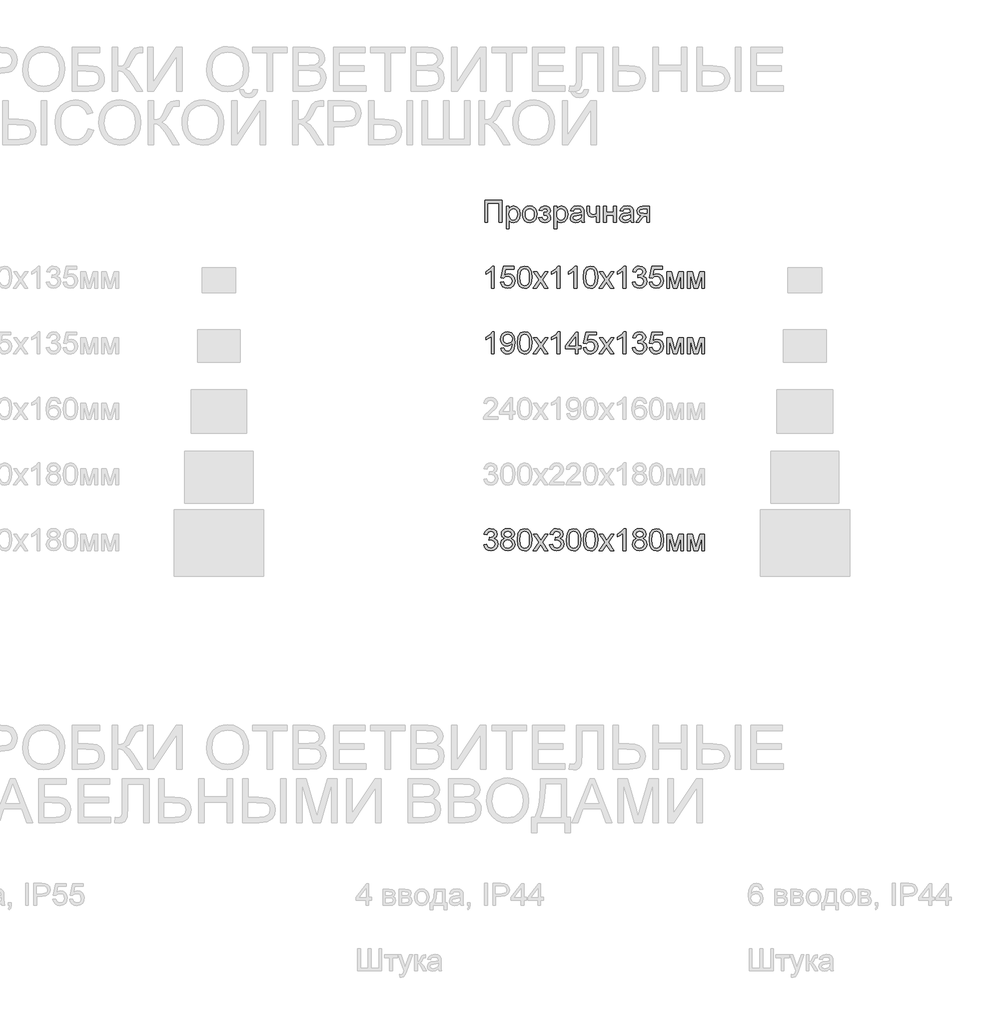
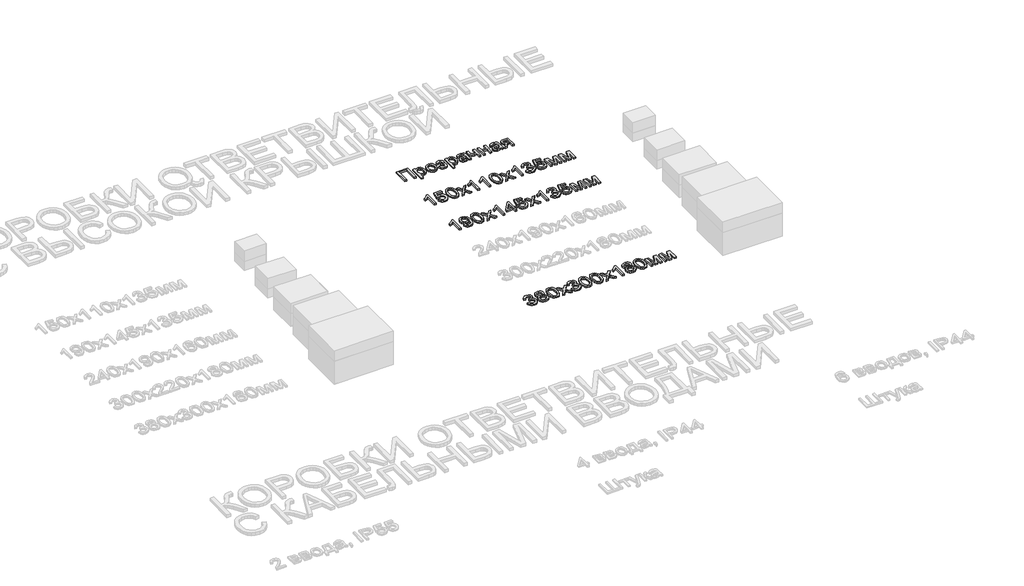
# One storey, part 18 of 98: 4 proxies.
"""IFC4 building model written with IfcOpenShell, lengths in millimetres."""

from ifc_helpers import new_model, si_unit, origin, origin_with_axes, place, context, project, spatial, polyline, outline, extrude, element, save

model = new_model("IFC4")

# Units and contexts
model_context = context("Model", 3, world=origin())
ifc_project = project(units=[si_unit("LENGTHUNIT", "METRE", prefix="MILLI")], contexts=[model_context])

# Site, building, storey
site = spatial("IfcSite", under=ifc_project)
building = spatial("IfcBuilding", under=site)
storey = spatial("IfcBuildingStorey", under=building, Name="Этаж 01", Elevation=0.0)

# Proxies
placement = place(None, origin())
element("IfcBuildingElementProxy", 1, Name="100", ObjectType="100", at=placement, inside=storey, context=model_context, shape_type="SweptSolid", body=[
    extrude(outline(polyline([(2685.9764133, -42337.5373486), (2673.4193745, -42337.5373486), (2673.4193745, -42259.25206), (2661.5245234, -42267.7256087), (2648.305297, -42274.0654417), (2648.305297, -42262.195116), (2666.7116595, -42250.4474176), (2677.8830094, -42237.0810385), (2685.9764133, -42237.0810385), (2685.9764133, -42337.5373486)])), origin_with_axes(), (0.0, 0.0, 1.0), 10.0),
    extrude(outline(polyline([(2715.7993804, -42310.8536412), (2728.3564191, -42309.2840114), (2734.6839895, -42322.2211949), (2747.805114, -42326.5499397), (2756.8059601, -42325.0446892), (2763.5504633, -42320.5289377), (2767.7627122, -42313.5238514), (2769.1667951, -42304.5505964), (2763.9060826, -42289.6391128), (2757.2995351, -42285.5372286), (2748.0013177, -42284.1699338), (2736.9771206, -42286.3527004), (2729.926049, -42292.0180831), (2717.3690102, -42290.4484532), (2728.3564191, -42238.6506683), (2777.0149444, -42238.6506683), (2777.0149444, -42251.2077071), (2738.5099622, -42251.2077071), (2733.1388851, -42278.8724331), (2742.1090744, -42273.4277796), (2751.5084594, -42271.6128951), (2763.2408293, -42273.8631066), (2772.9805052, -42280.6137412), (2779.5380017, -42290.9021744), (2781.7238339, -42303.7657815), (2779.7556652, -42316.3228202), (2773.8511592, -42327.0649745), (2762.5449192, -42336.0964775), (2747.756063, -42339.1069785), (2735.4228191, -42337.1725323), (2725.5973042, -42331.3691938), (2718.861998, -42322.3714134), (2715.7993804, -42310.8536412)])), origin_with_axes(), (0.0, 0.0, 1.0), 10.0),
    extrude(outline(polyline([(2792.7112428, -42288.1185339), (2796.4023255, -42259.2152718), (2807.365209, -42242.5502175), (2825.6734696, -42237.0810385), (2840.3396985, -42240.3184), (2850.4687161, -42249.65034), (2856.354828, -42264.5127726), (2858.6356964, -42288.1185339), (2854.9814019, -42316.8991687), (2844.0553066, -42333.6010113), (2835.823947, -42337.7304867), (2825.6734696, -42339.1069785), (2812.6259215, -42336.7157455), (2802.7176331, -42329.5420466), (2795.2128404, -42312.5520298), (2792.7112428, -42288.1185339)]), holes=[polyline([(2805.2682816, -42288.0940085), (2806.7398096, -42307.8462059), (2811.1543935, -42319.2781389), (2817.7272185, -42324.7319895), (2825.6734696, -42326.5499397), (2833.6197207, -42324.7258581), (2840.1925457, -42319.2536135), (2844.6071296, -42307.8155491), (2846.0786576, -42288.0940085), (2844.6561806, -42268.7863351), (2840.3887494, -42257.2654973), (2833.8281872, -42251.5449322), (2825.5263168, -42249.6380772), (2817.6659048, -42251.3180717), (2811.3505973, -42256.358055), (2806.7888605, -42268.5962627), (2805.2682816, -42288.0940085)])]), origin_with_axes(), (0.0, 0.0, 1.0), 10.0),
    extrude(outline(polyline([(2864.9142158, -42337.5373486), (2891.7450759, -42300.4548435), (2866.4838456, -42263.7647458), (2881.5915329, -42263.7647458), (2893.7806896, -42281.4230816), (2899.4705978, -42289.7617402), (2904.4002166, -42282.9436605), (2918.2816305, -42263.7647458), (2933.3893178, -42263.7647458), (2906.8527632, -42300.4548435), (2932.4082991, -42337.5373486), (2917.3006119, -42337.5373486), (2901.9231445, -42315.2436997), (2899.1027158, -42311.1724723), (2880.021903, -42337.5373486), (2864.9142158, -42337.5373486)])), origin_with_axes(), (0.0, 0.0, 1.0), 10.0),
    extrude(outline(polyline([(2987.3453437, -42337.5373486), (2974.788305, -42337.5373486), (2974.788305, -42259.25206), (2962.8934538, -42267.7256087), (2949.6742274, -42274.0654417), (2949.6742274, -42262.195116), (2968.0805899, -42250.4474176), (2979.2519399, -42237.0810385), (2987.3453437, -42237.0810385), (2987.3453437, -42337.5373486)])), origin_with_axes(), (0.0, 0.0, 1.0), 10.0),
    extrude(outline(polyline([(3064.2572062, -42337.5373486), (3051.7001674, -42337.5373486), (3051.7001674, -42259.25206), (3039.8053163, -42267.7256087), (3026.5860899, -42274.0654417), (3026.5860899, -42262.195116), (3044.9924524, -42250.4474176), (3056.1638023, -42237.0810385), (3064.2572062, -42237.0810385), (3064.2572062, -42337.5373486)])), origin_with_axes(), (0.0, 0.0, 1.0), 10.0),
    extrude(outline(polyline([(3094.0801733, -42288.1185339), (3097.771256, -42259.2152718), (3108.7341394, -42242.5502175), (3127.0424, -42237.0810385), (3141.7086289, -42240.3184), (3151.8376465, -42249.65034), (3157.7237584, -42264.5127726), (3160.0046268, -42288.1185339), (3156.3503323, -42316.8991687), (3145.4242371, -42333.6010113), (3137.1928774, -42337.7304867), (3127.0424, -42339.1069785), (3113.994852, -42336.7157455), (3104.0865635, -42329.5420466), (3096.5817708, -42312.5520298), (3094.0801733, -42288.1185339)]), holes=[polyline([(3106.637212, -42288.0940085), (3108.10874, -42307.8462059), (3112.523324, -42319.2781389), (3119.096149, -42324.7319895), (3127.0424, -42326.5499397), (3134.9886511, -42324.7258581), (3141.5614761, -42319.2536135), (3145.9760601, -42307.8155491), (3147.447588, -42288.0940085), (3146.025111, -42268.7863351), (3141.7576799, -42257.2654973), (3135.1971176, -42251.5449322), (3126.8952473, -42249.6380772), (3119.0348353, -42251.3180717), (3112.7195277, -42256.358055), (3108.157791, -42268.5962627), (3106.637212, -42288.0940085)])]), origin_with_axes(), (0.0, 0.0, 1.0), 10.0),
    extrude(outline(polyline([(3166.2831462, -42337.5373486), (3193.1140064, -42300.4548435), (3167.852776, -42263.7647458), (3182.9604633, -42263.7647458), (3195.1496201, -42281.4230816), (3200.8395283, -42289.7617402), (3205.769147, -42282.9436605), (3219.650561, -42263.7647458), (3234.7582482, -42263.7647458), (3208.2216937, -42300.4548435), (3233.7772296, -42337.5373486), (3218.6695423, -42337.5373486), (3203.2920749, -42315.2436997), (3200.4716463, -42311.1724723), (3181.3908335, -42337.5373486), (3166.2831462, -42337.5373486)])), origin_with_axes(), (0.0, 0.0, 1.0), 10.0),
    extrude(outline(polyline([(3288.7142742, -42337.5373486), (3276.1572354, -42337.5373486), (3276.1572354, -42259.25206), (3264.2623842, -42267.7256087), (3251.0431579, -42274.0654417), (3251.0431579, -42262.195116), (3269.4495204, -42250.4474176), (3280.6208703, -42237.0810385), (3288.7142742, -42237.0810385), (3288.7142742, -42337.5373486)])), origin_with_axes(), (0.0, 0.0, 1.0), 10.0),
    extrude(outline(polyline([(3318.5372413, -42310.8536412), (3331.09428, -42309.2840114), (3338.0227243, -42322.5032377), (3350.9844332, -42326.5499397), (3359.5928719, -42325.1581195), (3366.2392733, -42320.9826588), (3371.904656, -42307.1993467), (3366.2883242, -42294.2131123), (3352.0145028, -42289.0750271), (3343.2098604, -42290.4484532), (3344.607812, -42277.8914145), (3346.6189002, -42278.0385673), (3360.8681962, -42274.4333237), (3365.6138739, -42269.8593242), (3367.1957665, -42263.3478129), (3362.6095043, -42253.5253636), (3350.7882295, -42249.6380772), (3338.8198019, -42253.5621518), (3332.6639099, -42265.3343757), (3320.1068711, -42263.7647458), (3323.8040852, -42252.4891627), (3330.3830415, -42244.0707964), (3339.3838877, -42238.8284779), (3350.3467711, -42237.0810385), (3365.4912466, -42240.5268665), (3376.086248, -42249.9446456), (3379.7528053, -42262.6120489), (3376.270189, -42274.188069), (3365.9694932, -42282.5022021), (3379.6547034, -42291.0861154), (3384.4616948, -42307.4200759), (3382.0581991, -42319.6582836), (3374.847712, -42329.8854031), (3363.9645363, -42336.8015846), (3350.5429749, -42339.1069785), (3338.402869, -42337.1388098), (3328.5191061, -42331.2343038), (3321.6458441, -42322.2028008), (3318.5372413, -42310.8536412)])), origin_with_axes(), (0.0, 0.0, 1.0), 10.0),
    extrude(outline(polyline([(3395.4491037, -42310.8536412), (3408.0061425, -42309.2840114), (3414.3337128, -42322.2211949), (3427.4548373, -42326.5499397), (3436.4556835, -42325.0446892), (3443.2001867, -42320.5289377), (3447.4124355, -42313.5238514), (3448.8165185, -42304.5505964), (3443.555806, -42289.6391128), (3436.9492585, -42285.5372286), (3427.651041, -42284.1699338), (3416.6268439, -42286.3527004), (3409.5757723, -42292.0180831), (3397.0187336, -42290.4484532), (3408.0061425, -42238.6506683), (3456.6646677, -42238.6506683), (3456.6646677, -42251.2077071), (3418.1596856, -42251.2077071), (3412.7886084, -42278.8724331), (3421.7587978, -42273.4277796), (3431.1581827, -42271.6128951), (3442.8905527, -42273.8631066), (3452.6302285, -42280.6137412), (3459.1877251, -42290.9021744), (3461.3735573, -42303.7657815), (3459.4053886, -42316.3228202), (3453.5008826, -42327.0649745), (3442.1946426, -42336.0964775), (3427.4057864, -42339.1069785), (3415.0725425, -42337.1725323), (3405.2470275, -42331.3691938), (3398.5117213, -42322.3714134), (3395.4491037, -42310.8536412)])), origin_with_axes(), (0.0, 0.0, 1.0), 10.0),
    extrude(outline(polyline([(3475.5002259, -42263.7647458), (3497.1071617, -42263.7647458), (3513.7599534, -42322.8220688), (3531.7125947, -42263.7647458), (3552.4120883, -42263.7647458), (3552.4120883, -42337.5373486), (3539.8550496, -42337.5373486), (3539.8550496, -42278.1366691), (3521.8043063, -42337.5373486), (3505.323193, -42337.5373486), (3488.0572646, -42275.291715), (3488.0572646, -42337.5373486), (3475.5002259, -42337.5373486), (3475.5002259, -42263.7647458)])), origin_with_axes(), (0.0, 0.0, 1.0), 10.0),
    extrude(outline(polyline([(3571.2476465, -42263.7647458), (3592.8545823, -42263.7647458), (3609.507374, -42322.8220688), (3627.4600154, -42263.7647458), (3648.1595089, -42263.7647458), (3648.1595089, -42337.5373486), (3635.6024702, -42337.5373486), (3635.6024702, -42278.1366691), (3617.551727, -42337.5373486), (3601.0706136, -42337.5373486), (3583.8046853, -42275.291715), (3583.8046853, -42337.5373486), (3571.2476465, -42337.5373486), (3571.2476465, -42263.7647458)])), origin_with_axes(), (0.0, 0.0, 1.0), 10.0),
])
element("IfcBuildingElementProxy", 2, Name="100", ObjectType="100", at=placement, inside=storey, context=model_context, shape_type="SweptSolid", body=[
    extrude(outline(polyline([(2643.5964075, -41937.0810385), (2722.0778998, -41937.0810385), (2722.0778998, -42037.5373486), (2709.520861, -42037.5373486), (2709.520861, -41949.6380772), (2656.1534462, -41949.6380772), (2656.1534462, -42037.5373486), (2643.5964075, -42037.5373486), (2643.5964075, -41937.0810385)])), origin_with_axes(), (0.0, 0.0, 1.0), 10.0),
    extrude(outline(polyline([(2742.4830878, -42065.7906858), (2742.4830878, -41963.7647458), (2755.0401265, -41963.7647458), (2755.0401265, -41976.07653), (2763.7221416, -41965.6654695), (2775.4453145, -41962.195116), (2791.3623422, -41967.0511583), (2801.7611399, -41980.7363686), (2805.2682816, -42000.0869615), (2801.3074188, -42020.4308358), (2789.8049751, -42034.2877243), (2773.9247356, -42039.1069785), (2762.9986404, -42035.8818796), (2755.0401265, -42027.7271621), (2755.0401265, -42065.7906858), (2742.4830878, -42065.7906858)]), holes=[polyline([(2755.0401265, -42001.2396584), (2756.3982242, -42012.4968475), (2760.4725173, -42020.3695222), (2766.4843223, -42025.0048353), (2773.6549555, -42026.5499397), (2780.9420847, -42024.949653), (2787.1071738, -42020.148793), (2791.3102256, -42011.987944), (2792.7112428, -42000.3076907), (2791.3439481, -41989.1118153), (2787.2420638, -41981.128776), (2781.2394559, -41976.3463101), (2774.1699903, -41974.7521548), (2767.0729335, -41976.4474776), (2760.8403993, -41981.5334462), (2756.4901947, -41989.850645), (2755.0401265, -42001.2396584)])]), origin_with_axes(), (0.0, 0.0, 1.0), 10.0),
    extrude(outline(polyline([(2816.2556905, -42000.6510472), (2818.9718859, -41982.8639528), (2827.1204721, -41970.3620963), (2837.188176, -41964.2368611), (2849.2424428, -41962.195116), (2862.434078, -41964.6813852), (2872.9708314, -41972.1401926), (2879.8778159, -41983.9829272), (2882.1801441, -41999.6209776), (2878.1089166, -42021.9636775), (2866.2508537, -42034.6065554), (2849.2424428, -42039.1069785), (2835.891392, -42036.6299064), (2825.3669013, -42029.1986901), (2818.5334932, -42017.1076351), (2816.2556905, -42000.6510472)]), holes=[polyline([(2828.8127293, -42000.6265218), (2830.2658632, -42011.9910097), (2834.6252648, -42020.0874793), (2841.1858271, -42024.9343246), (2849.2424428, -42026.5499397), (2857.2622703, -42024.9251275), (2863.8105698, -42020.0506911), (2868.1699714, -42011.8469226), (2869.6231053, -42000.2341143), (2868.1607744, -41989.2007201), (2863.7737816, -41981.2146152), (2857.216285, -41976.3677699), (2849.2424428, -41974.7521548), (2841.1858271, -41976.3616385), (2834.6252648, -41981.1900897), (2830.2658632, -41989.2681652), (2828.8127293, -42000.6265218)])]), origin_with_axes(), (0.0, 0.0, 1.0), 10.0),
    extrude(outline(polyline([(2913.572741, -42004.5751218), (2913.572741, -41992.0180831), (2923.4810294, -41991.5275737), (2928.4842245, -41988.9156116), (2930.8386693, -41983.4586953), (2927.6871469, -41977.1188623), (2919.5569548, -41974.7521548), (2911.1569825, -41977.1065995), (2905.7245917, -41984.1699338), (2891.5979231, -41982.600304), (2901.0402277, -41967.296413), (2918.2816305, -41962.195116), (2928.7785301, -41963.7494174), (2936.7247812, -41968.4123217), (2941.7279763, -41975.233467), (2943.3957081, -41983.2624916), (2941.0228692, -41991.0615899), (2933.9043526, -41997.0948546), (2942.2062229, -42004.9184784), (2944.9653379, -42016.1756674), (2943.2148327, -42025.4187026), (2937.9633173, -42032.7426199), (2929.5664107, -42037.5158888), (2918.3797324, -42039.1069785), (2907.4383087, -42037.6354505), (2899.0659276, -42033.2208665), (2893.2625892, -42025.8632266), (2890.0282933, -42015.5625308), (2904.1549619, -42013.9929009), (2909.8203446, -42023.2635272), (2919.5814802, -42026.5499397), (2928.7540046, -42023.3984173), (2932.4082991, -42015.3418016), (2930.1396935, -42008.7444511), (2925.3081766, -42005.212784), (2916.0252876, -42004.5015454), (2913.572741, -42004.5751218)])), origin_with_axes(), (0.0, 0.0, 1.0), 10.0),
    extrude(outline(polyline([(2960.6616364, -42065.7906858), (2960.6616364, -41963.7647458), (2973.2186751, -41963.7647458), (2973.2186751, -41976.07653), (2981.9006902, -41965.6654695), (2993.6238631, -41962.195116), (3009.5408908, -41967.0511583), (3019.9396885, -41980.7363686), (3023.4468302, -42000.0869615), (3019.4859674, -42020.4308358), (3007.9835237, -42034.2877243), (2992.1032842, -42039.1069785), (2981.177189, -42035.8818796), (2973.2186751, -42027.7271621), (2973.2186751, -42065.7906858), (2960.6616364, -42065.7906858)]), holes=[polyline([(2973.2186751, -42001.2396584), (2974.5767728, -42012.4968475), (2978.6510659, -42020.3695222), (2984.6628709, -42025.0048353), (2991.8335041, -42026.5499397), (2999.1206333, -42024.949653), (3005.2857224, -42020.148793), (3009.4887742, -42011.987944), (3010.8897914, -42000.3076907), (3009.5224967, -41989.1118153), (3005.4206124, -41981.128776), (2999.4180046, -41976.3463101), (2992.3485389, -41974.7521548), (2985.2514821, -41976.4474776), (2979.0189479, -41981.5334462), (2974.6687433, -41989.850645), (2973.2186751, -42001.2396584)])]), origin_with_axes(), (0.0, 0.0, 1.0), 10.0),
    extrude(outline(polyline([(3084.6623942, -42028.1195695), (3072.4855002, -42036.6299064), (3059.0332819, -42039.1069785), (3048.539448, -42037.6170564), (3040.7985976, -42033.1472901), (3036.0253288, -42026.3598673), (3034.4342391, -42017.9169755), (3036.8377348, -42007.9841617), (3043.1530424, -42000.7736746), (3051.9454221, -41996.6533962), (3062.8102037, -41994.7649353), (3084.5888178, -41990.4484532), (3084.6623942, -41987.6525501), (3081.2043034, -41978.3819238), (3067.3228895, -41974.7521548), (3054.6186979, -41977.1679132), (3048.5609077, -41985.7395637), (3036.003869, -41984.1699338), (3041.4362598, -41971.9072007), (3052.3746178, -41964.721239), (3068.9415703, -41962.195116), (3084.1596221, -41964.4269334), (3092.7557981, -41970.0310025), (3096.6062963, -41978.5536021), (3097.219433, -41989.541011), (3097.219433, -42005.163733), (3097.8570951, -42026.9791354), (3100.3586927, -42037.5373486), (3087.8016539, -42037.5373486), (3084.6623942, -42028.1195695)]), holes=[polyline([(3084.6623942, -42003.005492), (3064.404359, -42006.8559902), (3053.6008911, -42008.8916039), (3048.7080605, -42012.2025419), (3046.9912779, -42017.0340587), (3050.7314115, -42023.8276129), (3061.7065577, -42026.5499397), (3074.4107493, -42023.5455701), (3082.602255, -42016.2737693), (3084.5888178, -42006.5616846), (3084.6623942, -42003.005492)])]), origin_with_axes(), (0.0, 0.0, 1.0), 10.0),
    extrude(outline(polyline([(3109.7764717, -41963.7647458), (3122.3335105, -41963.7647458), (3122.3335105, -41977.9159399), (3123.3513174, -41991.1842172), (3128.2441479, -41998.3701789), (3137.9562326, -42001.4358622), (3155.2957373, -41997.6344149), (3155.2957373, -41963.7647458), (3167.852776, -41963.7647458), (3167.852776, -42037.5373486), (3155.2957373, -42037.5373486), (3155.2957373, -42009.6764188), (3134.5962437, -42013.9929009), (3120.3592105, -42009.4924778), (3111.9837637, -41998.4682807), (3109.7764717, -41984.1208829), (3109.7764717, -41963.7647458)])), origin_with_axes(), (0.0, 0.0, 1.0), 10.0),
    extrude(outline(polyline([(3186.6883342, -41963.7647458), (3199.245373, -41963.7647458), (3199.245373, -41992.0180831), (3232.2075997, -41992.0180831), (3232.2075997, -41963.7647458), (3244.7646385, -41963.7647458), (3244.7646385, -42037.5373486), (3232.2075997, -42037.5373486), (3232.2075997, -42004.5751218), (3199.245373, -42004.5751218), (3199.245373, -42037.5373486), (3186.6883342, -42037.5373486), (3186.6883342, -41963.7647458)])), origin_with_axes(), (0.0, 0.0, 1.0), 10.0),
    extrude(outline(polyline([(3310.689092, -42028.1195695), (3298.512198, -42036.6299064), (3285.0599797, -42039.1069785), (3274.5661458, -42037.6170564), (3266.8252955, -42033.1472901), (3262.0520266, -42026.3598673), (3260.460937, -42017.9169755), (3262.8644327, -42007.9841617), (3269.1797403, -42000.7736746), (3277.9721199, -41996.6533962), (3288.8369015, -41994.7649353), (3310.6155156, -41990.4484532), (3310.689092, -41987.6525501), (3307.2310013, -41978.3819238), (3293.3495873, -41974.7521548), (3280.6453958, -41977.1679132), (3274.5876056, -41985.7395637), (3262.0305668, -41984.1699338), (3267.4629576, -41971.9072007), (3278.4013156, -41964.721239), (3294.9682681, -41962.195116), (3310.18632, -41964.4269334), (3318.7824959, -41970.0310025), (3322.6329942, -41978.5536021), (3323.2461308, -41989.541011), (3323.2461308, -42005.163733), (3323.8837929, -42026.9791354), (3326.3853905, -42037.5373486), (3313.8283517, -42037.5373486), (3310.689092, -42028.1195695)]), holes=[polyline([(3310.689092, -42003.005492), (3290.4310568, -42006.8559902), (3279.6275889, -42008.8916039), (3274.7347584, -42012.2025419), (3273.0179757, -42017.0340587), (3276.7581094, -42023.8276129), (3287.7332555, -42026.5499397), (3300.4374471, -42023.5455701), (3308.6289529, -42016.2737693), (3310.6155156, -42006.5616846), (3310.689092, -42003.005492)])]), origin_with_axes(), (0.0, 0.0, 1.0), 10.0),
    extrude(outline(polyline([(3397.0187336, -41963.7647458), (3397.0187336, -42037.5373486), (3384.4616948, -42037.5373486), (3384.4616948, -42009.2840114), (3377.6190897, -42009.2840114), (3368.2994125, -42010.8781667), (3359.543821, -42021.5957955), (3349.5374307, -42037.5373486), (3335.0183547, -42037.5373486), (3347.6244444, -42017.3774153), (3358.3175477, -42006.9295666), (3349.7336345, -42004.2992103), (3343.7003697, -41999.3021466), (3338.9424293, -41985.0773761), (3340.5672414, -41976.4812001), (3345.4416779, -41969.6753832), (3353.3940603, -41965.2424052), (3364.2527105, -41963.7647458), (3397.0187336, -41963.7647458)]), holes=[polyline([(3384.4616948, -41976.3217846), (3367.907005, -41976.3217846), (3354.5038377, -41979.2280524), (3351.499468, -41986.0338693), (3355.9263147, -41994.1395359), (3371.6103504, -41996.7269726), (3384.4616948, -41996.7269726), (3384.4616948, -41976.3217846)])]), origin_with_axes(), (0.0, 0.0, 1.0), 10.0),
])
element("IfcBuildingElementProxy", 3, Name="100", ObjectType="100", at=placement, inside=storey, context=model_context, shape_type="SweptSolid", body=[
    extrude(outline(polyline([(2685.9764133, -42637.5373486), (2673.4193745, -42637.5373486), (2673.4193745, -42559.25206), (2661.5245234, -42567.7256087), (2648.305297, -42574.0654417), (2648.305297, -42562.195116), (2666.7116595, -42550.4474176), (2677.8830094, -42537.0810385), (2685.9764133, -42537.0810385), (2685.9764133, -42637.5373486)])), origin_with_axes(), (0.0, 0.0, 1.0), 10.0),
    extrude(outline(polyline([(2717.3690102, -42612.4232711), (2729.926049, -42610.8536412), (2735.5669062, -42622.8343315), (2746.2600096, -42626.5499397), (2756.4258154, -42624.1587067), (2763.3174714, -42617.7698227), (2767.425487, -42606.8559902), (2769.2403715, -42592.2878632), (2769.1667951, -42589.8353166), (2759.1236167, -42599.3511975), (2745.3525673, -42603.005492), (2733.9022402, -42600.7736746), (2724.3710309, -42594.0782222), (2717.942293, -42583.7346068), (2715.7993804, -42570.5583), (2718.0465262, -42556.9466662), (2724.7879638, -42546.2780883), (2734.9139157, -42539.3803009), (2747.3146046, -42537.0810385), (2765.2059323, -42542.3294883), (2777.5177164, -42557.2900227), (2781.7238339, -42585.3962072), (2777.5299792, -42615.8936246), (2772.3152519, -42625.8846864), (2765.0587795, -42633.1718156), (2756.0732618, -42637.6231877), (2745.6713984, -42639.1069785), (2734.9353755, -42637.3564733), (2726.3698564, -42632.1049578), (2720.3795112, -42623.6835258), (2717.3690102, -42612.4232711)]), holes=[polyline([(2769.1667951, -42570.2639944), (2767.8117631, -42561.7536576), (2763.7466671, -42555.2053581), (2757.4374909, -42551.0298974), (2749.3502183, -42549.6380772), (2740.9625088, -42551.1371964), (2734.2425311, -42555.6345538), (2729.8279471, -42562.5170127), (2728.3564191, -42571.1714367), (2729.7482394, -42578.9306811), (2733.9237, -42585.0896388), (2740.4781309, -42589.1087496), (2749.0068618, -42590.4484532), (2763.4891497, -42585.0896388), (2767.7473838, -42578.7038205), (2769.1667951, -42570.2639944)])]), origin_with_axes(), (0.0, 0.0, 1.0), 10.0),
    extrude(outline(polyline([(2792.7112428, -42588.1185339), (2796.4023255, -42559.2152718), (2807.365209, -42542.5502175), (2825.6734696, -42537.0810385), (2840.3396985, -42540.3184), (2850.4687161, -42549.65034), (2856.354828, -42564.5127726), (2858.6356964, -42588.1185339), (2854.9814019, -42616.8991687), (2844.0553066, -42633.6010113), (2835.823947, -42637.7304867), (2825.6734696, -42639.1069785), (2812.6259215, -42636.7157455), (2802.7176331, -42629.5420466), (2795.2128404, -42612.5520298), (2792.7112428, -42588.1185339)]), holes=[polyline([(2805.2682816, -42588.0940085), (2806.7398096, -42607.8462059), (2811.1543935, -42619.2781389), (2817.7272185, -42624.7319895), (2825.6734696, -42626.5499397), (2833.6197207, -42624.7258581), (2840.1925457, -42619.2536135), (2844.6071296, -42607.8155491), (2846.0786576, -42588.0940085), (2844.6561806, -42568.7863351), (2840.3887494, -42557.2654973), (2833.8281872, -42551.5449322), (2825.5263168, -42549.6380772), (2817.6659048, -42551.3180717), (2811.3505973, -42556.358055), (2806.7888605, -42568.5962627), (2805.2682816, -42588.0940085)])]), origin_with_axes(), (0.0, 0.0, 1.0), 10.0),
    extrude(outline(polyline([(2864.9142158, -42637.5373486), (2891.7450759, -42600.4548435), (2866.4838456, -42563.7647458), (2881.5915329, -42563.7647458), (2893.7806896, -42581.4230816), (2899.4705978, -42589.7617402), (2904.4002166, -42582.9436605), (2918.2816305, -42563.7647458), (2933.3893178, -42563.7647458), (2906.8527632, -42600.4548435), (2932.4082991, -42637.5373486), (2917.3006119, -42637.5373486), (2901.9231445, -42615.2436997), (2899.1027158, -42611.1724723), (2880.021903, -42637.5373486), (2864.9142158, -42637.5373486)])), origin_with_axes(), (0.0, 0.0, 1.0), 10.0),
    extrude(outline(polyline([(2987.3453437, -42637.5373486), (2974.788305, -42637.5373486), (2974.788305, -42559.25206), (2962.8934538, -42567.7256087), (2949.6742274, -42574.0654417), (2949.6742274, -42562.195116), (2968.0805899, -42550.4474176), (2979.2519399, -42537.0810385), (2987.3453437, -42537.0810385), (2987.3453437, -42637.5373486)])), origin_with_axes(), (0.0, 0.0, 1.0), 10.0),
    extrude(outline(polyline([(3057.9786868, -42637.5373486), (3057.9786868, -42613.9929009), (3012.4594213, -42613.9929009), (3012.4594213, -42601.4358622), (3061.1179465, -42538.6506683), (3070.5357256, -42538.6506683), (3070.5357256, -42601.4358622), (3083.0927644, -42601.4358622), (3083.0927644, -42613.9929009), (3070.5357256, -42613.9929009), (3070.5357256, -42637.5373486), (3057.9786868, -42637.5373486)]), holes=[polyline([(3057.9786868, -42601.4358622), (3057.9786868, -42562.6365744), (3027.9104651, -42601.4358622), (3057.9786868, -42601.4358622)])]), origin_with_axes(), (0.0, 0.0, 1.0), 10.0),
    extrude(outline(polyline([(3094.0801733, -42610.8536412), (3106.637212, -42609.2840114), (3112.9647824, -42622.2211949), (3126.0859069, -42626.5499397), (3135.086753, -42625.0446892), (3141.8312563, -42620.5289377), (3146.0435051, -42613.5238514), (3147.447588, -42604.5505964), (3142.1868755, -42589.6391128), (3135.580328, -42585.5372286), (3126.2821106, -42584.1699338), (3115.2579135, -42586.3527004), (3108.2068419, -42592.0180831), (3095.6498031, -42590.4484532), (3106.637212, -42538.6506683), (3155.2957373, -42538.6506683), (3155.2957373, -42551.2077071), (3116.7907551, -42551.2077071), (3111.419678, -42578.8724331), (3120.3898673, -42573.4277796), (3129.7892523, -42571.6128951), (3141.5216222, -42573.8631066), (3151.2612981, -42580.6137412), (3157.8187946, -42590.9021744), (3160.0046268, -42603.7657815), (3158.0364581, -42616.3228202), (3152.1319521, -42627.0649745), (3140.8257121, -42636.0964775), (3126.0368559, -42639.1069785), (3113.703612, -42637.1725323), (3103.8780971, -42631.3691938), (3097.1427909, -42622.3714134), (3094.0801733, -42610.8536412)])), origin_with_axes(), (0.0, 0.0, 1.0), 10.0),
    extrude(outline(polyline([(3166.2831462, -42637.5373486), (3193.1140064, -42600.4548435), (3167.852776, -42563.7647458), (3182.9604633, -42563.7647458), (3195.1496201, -42581.4230816), (3200.8395283, -42589.7617402), (3205.769147, -42582.9436605), (3219.650561, -42563.7647458), (3234.7582482, -42563.7647458), (3208.2216937, -42600.4548435), (3233.7772296, -42637.5373486), (3218.6695423, -42637.5373486), (3203.2920749, -42615.2436997), (3200.4716463, -42611.1724723), (3181.3908335, -42637.5373486), (3166.2831462, -42637.5373486)])), origin_with_axes(), (0.0, 0.0, 1.0), 10.0),
    extrude(outline(polyline([(3288.7142742, -42637.5373486), (3276.1572354, -42637.5373486), (3276.1572354, -42559.25206), (3264.2623842, -42567.7256087), (3251.0431579, -42574.0654417), (3251.0431579, -42562.195116), (3269.4495204, -42550.4474176), (3280.6208703, -42537.0810385), (3288.7142742, -42537.0810385), (3288.7142742, -42637.5373486)])), origin_with_axes(), (0.0, 0.0, 1.0), 10.0),
    extrude(outline(polyline([(3318.5372413, -42610.8536412), (3331.09428, -42609.2840114), (3338.0227243, -42622.5032377), (3350.9844332, -42626.5499397), (3359.5928719, -42625.1581195), (3366.2392733, -42620.9826588), (3371.904656, -42607.1993467), (3366.2883242, -42594.2131123), (3352.0145028, -42589.0750271), (3343.2098604, -42590.4484532), (3344.607812, -42577.8914145), (3346.6189002, -42578.0385673), (3360.8681962, -42574.4333237), (3365.6138739, -42569.8593242), (3367.1957665, -42563.3478129), (3362.6095043, -42553.5253636), (3350.7882295, -42549.6380772), (3338.8198019, -42553.5621518), (3332.6639099, -42565.3343757), (3320.1068711, -42563.7647458), (3323.8040852, -42552.4891627), (3330.3830415, -42544.0707964), (3339.3838877, -42538.8284779), (3350.3467711, -42537.0810385), (3365.4912466, -42540.5268665), (3376.086248, -42549.9446456), (3379.7528053, -42562.6120489), (3376.270189, -42574.188069), (3365.9694932, -42582.5022021), (3379.6547034, -42591.0861154), (3384.4616948, -42607.4200759), (3382.0581991, -42619.6582836), (3374.847712, -42629.8854031), (3363.9645363, -42636.8015846), (3350.5429749, -42639.1069785), (3338.402869, -42637.1388098), (3328.5191061, -42631.2343038), (3321.6458441, -42622.2028008), (3318.5372413, -42610.8536412)])), origin_with_axes(), (0.0, 0.0, 1.0), 10.0),
    extrude(outline(polyline([(3395.4491037, -42610.8536412), (3408.0061425, -42609.2840114), (3414.3337128, -42622.2211949), (3427.4548373, -42626.5499397), (3436.4556835, -42625.0446892), (3443.2001867, -42620.5289377), (3447.4124355, -42613.5238514), (3448.8165185, -42604.5505964), (3443.555806, -42589.6391128), (3436.9492585, -42585.5372286), (3427.651041, -42584.1699338), (3416.6268439, -42586.3527004), (3409.5757723, -42592.0180831), (3397.0187336, -42590.4484532), (3408.0061425, -42538.6506683), (3456.6646677, -42538.6506683), (3456.6646677, -42551.2077071), (3418.1596856, -42551.2077071), (3412.7886084, -42578.8724331), (3421.7587978, -42573.4277796), (3431.1581827, -42571.6128951), (3442.8905527, -42573.8631066), (3452.6302285, -42580.6137412), (3459.1877251, -42590.9021744), (3461.3735573, -42603.7657815), (3459.4053886, -42616.3228202), (3453.5008826, -42627.0649745), (3442.1946426, -42636.0964775), (3427.4057864, -42639.1069785), (3415.0725425, -42637.1725323), (3405.2470275, -42631.3691938), (3398.5117213, -42622.3714134), (3395.4491037, -42610.8536412)])), origin_with_axes(), (0.0, 0.0, 1.0), 10.0),
    extrude(outline(polyline([(3475.5002259, -42563.7647458), (3497.1071617, -42563.7647458), (3513.7599534, -42622.8220688), (3531.7125947, -42563.7647458), (3552.4120883, -42563.7647458), (3552.4120883, -42637.5373486), (3539.8550496, -42637.5373486), (3539.8550496, -42578.1366691), (3521.8043063, -42637.5373486), (3505.323193, -42637.5373486), (3488.0572646, -42575.291715), (3488.0572646, -42637.5373486), (3475.5002259, -42637.5373486), (3475.5002259, -42563.7647458)])), origin_with_axes(), (0.0, 0.0, 1.0), 10.0),
    extrude(outline(polyline([(3571.2476465, -42563.7647458), (3592.8545823, -42563.7647458), (3609.507374, -42622.8220688), (3627.4600154, -42563.7647458), (3648.1595089, -42563.7647458), (3648.1595089, -42637.5373486), (3635.6024702, -42637.5373486), (3635.6024702, -42578.1366691), (3617.551727, -42637.5373486), (3601.0706136, -42637.5373486), (3583.8046853, -42575.291715), (3583.8046853, -42637.5373486), (3571.2476465, -42637.5373486), (3571.2476465, -42563.7647458)])), origin_with_axes(), (0.0, 0.0, 1.0), 10.0),
])
element("IfcBuildingElementProxy", 4, Name="100", ObjectType="100", at=placement, inside=storey, context=model_context, shape_type="SweptSolid", body=[
    extrude(outline(polyline([(2638.8875179, -43510.8536412), (2651.4445567, -43509.2840114), (2658.3730009, -43522.5032377), (2671.3347099, -43526.5499397), (2679.9431486, -43525.1581195), (2686.58955, -43520.9826588), (2692.2549327, -43507.1993467), (2686.6386009, -43494.2131123), (2672.3647795, -43489.0750271), (2663.5601371, -43490.4484532), (2664.9580886, -43477.8914145), (2666.9691769, -43478.0385673), (2681.2184728, -43474.4333237), (2685.9641506, -43469.8593242), (2687.5460431, -43463.3478129), (2682.9597809, -43453.5253636), (2671.1385062, -43449.6380772), (2659.1700786, -43453.5621518), (2653.0141865, -43465.3343757), (2640.4571478, -43463.7647458), (2644.1543618, -43452.4891627), (2650.7333182, -43444.0707964), (2659.7341643, -43438.8284779), (2670.6970478, -43437.0810385), (2685.8415232, -43440.5268665), (2696.4365247, -43449.9446456), (2700.1030819, -43462.6120489), (2696.6204657, -43474.188069), (2686.3197698, -43482.5022021), (2700.00498, -43491.0861154), (2704.8119715, -43507.4200759), (2702.4084757, -43519.6582836), (2695.1979886, -43529.8854031), (2684.314813, -43536.8015846), (2670.8932515, -43539.1069785), (2658.7531457, -43537.1388098), (2648.8693827, -43531.2343038), (2641.9961208, -43522.2028008), (2638.8875179, -43510.8536412)])), origin_with_axes(), (0.0, 0.0, 1.0), 10.0),
    extrude(outline(polyline([(2734.0953783, -43482.2078965), (2722.6542482, -43474.4087982), (2718.9386401, -43462.2686924), (2720.961991, -43452.4523745), (2727.032044, -43444.3405765), (2736.4682171, -43438.895923), (2748.5899289, -43437.0810385), (2760.785217, -43438.9388425), (2770.3440175, -43444.5122548), (2776.524435, -43452.7528115), (2778.5845742, -43462.6120489), (2774.918017, -43474.4455864), (2763.795718, -43482.2078965), (2777.1498344, -43492.0548713), (2781.7238339, -43508.3029927), (2779.4552283, -43520.3082085), (2772.6494114, -43530.2287596), (2762.140249, -43536.8874238), (2748.7616071, -43539.1069785), (2735.3829652, -43536.8782267), (2724.8738029, -43530.1919714), (2718.067986, -43520.1763841), (2715.7993804, -43507.9596362), (2720.5573208, -43491.33137), (2734.0953783, -43482.2078965)]), holes=[polyline([(2731.4956788, -43462.6365744), (2735.947051, -43472.4958119), (2748.9087599, -43476.3217846), (2761.6129515, -43472.5203373), (2766.0275354, -43463.2006601), (2761.4657987, -43453.5498891), (2748.7616071, -43449.6380772), (2736.0206274, -43453.46405), (2731.4956788, -43462.6365744)]), polyline([(2728.3564191, -43507.5181778), (2730.4533465, -43516.9727451), (2737.8723001, -43524.0483421), (2748.859709, -43526.5499397), (2757.406834, -43525.2347616), (2763.8202435, -43521.2892272), (2769.1667951, -43507.9105853), (2763.6485652, -43494.274426), (2757.088003, -43490.227724), (2748.4427761, -43488.8788234), (2740.0152127, -43490.2093299), (2733.6661826, -43494.2008496), (2728.3564191, -43507.5181778)])]), origin_with_axes(), (0.0, 0.0, 1.0), 10.0),
    extrude(outline(polyline([(2792.7112428, -43488.1185339), (2796.4023255, -43459.2152718), (2807.365209, -43442.5502175), (2825.6734696, -43437.0810385), (2840.3396985, -43440.3184), (2850.4687161, -43449.65034), (2856.354828, -43464.5127726), (2858.6356964, -43488.1185339), (2854.9814019, -43516.8991687), (2844.0553066, -43533.6010113), (2835.823947, -43537.7304867), (2825.6734696, -43539.1069785), (2812.6259215, -43536.7157455), (2802.7176331, -43529.5420466), (2795.2128404, -43512.5520298), (2792.7112428, -43488.1185339)]), holes=[polyline([(2805.2682816, -43488.0940085), (2806.7398096, -43507.8462059), (2811.1543935, -43519.2781389), (2817.7272185, -43524.7319895), (2825.6734696, -43526.5499397), (2833.6197207, -43524.7258581), (2840.1925457, -43519.2536135), (2844.6071296, -43507.8155491), (2846.0786576, -43488.0940085), (2844.6561806, -43468.7863351), (2840.3887494, -43457.2654973), (2833.8281872, -43451.5449322), (2825.5263168, -43449.6380772), (2817.6659048, -43451.3180717), (2811.3505973, -43456.358055), (2806.7888605, -43468.5962627), (2805.2682816, -43488.0940085)])]), origin_with_axes(), (0.0, 0.0, 1.0), 10.0),
    extrude(outline(polyline([(2864.9142158, -43537.5373486), (2891.7450759, -43500.4548435), (2866.4838456, -43463.7647458), (2881.5915329, -43463.7647458), (2893.7806896, -43481.4230816), (2899.4705978, -43489.7617402), (2904.4002166, -43482.9436605), (2918.2816305, -43463.7647458), (2933.3893178, -43463.7647458), (2906.8527632, -43500.4548435), (2932.4082991, -43537.5373486), (2917.3006119, -43537.5373486), (2901.9231445, -43515.2436997), (2899.1027158, -43511.1724723), (2880.021903, -43537.5373486), (2864.9142158, -43537.5373486)])), origin_with_axes(), (0.0, 0.0, 1.0), 10.0),
    extrude(outline(polyline([(2940.2564484, -43510.8536412), (2952.8134871, -43509.2840114), (2959.7419314, -43522.5032377), (2972.7036403, -43526.5499397), (2981.312079, -43525.1581195), (2987.9584804, -43520.9826588), (2993.6238631, -43507.1993467), (2988.0075313, -43494.2131123), (2973.7337099, -43489.0750271), (2964.9290675, -43490.4484532), (2966.3270191, -43477.8914145), (2968.3381073, -43478.0385673), (2982.5874033, -43474.4333237), (2987.333081, -43469.8593242), (2988.9149736, -43463.3478129), (2984.3287114, -43453.5253636), (2972.5074366, -43449.6380772), (2960.539009, -43453.5621518), (2954.383117, -43465.3343757), (2941.8260782, -43463.7647458), (2945.5232923, -43452.4891627), (2952.1022486, -43444.0707964), (2961.1030948, -43438.8284779), (2972.0659782, -43437.0810385), (2987.2104537, -43440.5268665), (2997.8054551, -43449.9446456), (3001.4720124, -43462.6120489), (2997.9893961, -43474.188069), (2987.6887003, -43482.5022021), (3001.3739105, -43491.0861154), (3006.1809019, -43507.4200759), (3003.7774062, -43519.6582836), (2996.5669191, -43529.8854031), (2985.6837434, -43536.8015846), (2972.2621819, -43539.1069785), (2960.1220761, -43537.1388098), (2950.2383132, -43531.2343038), (2943.3650512, -43522.2028008), (2940.2564484, -43510.8536412)])), origin_with_axes(), (0.0, 0.0, 1.0), 10.0),
    extrude(outline(polyline([(3017.1683108, -43488.1185339), (3020.8593935, -43459.2152718), (3031.822277, -43442.5502175), (3050.1305376, -43437.0810385), (3064.7967665, -43440.3184), (3074.9257841, -43449.65034), (3080.811896, -43464.5127726), (3083.0927644, -43488.1185339), (3079.4384699, -43516.8991687), (3068.5123746, -43533.6010113), (3060.281015, -43537.7304867), (3050.1305376, -43539.1069785), (3037.0829895, -43536.7157455), (3027.1747011, -43529.5420466), (3019.6699084, -43512.5520298), (3017.1683108, -43488.1185339)]), holes=[polyline([(3029.7253496, -43488.0940085), (3031.1968776, -43507.8462059), (3035.6114615, -43519.2781389), (3042.1842865, -43524.7319895), (3050.1305376, -43526.5499397), (3058.0767887, -43524.7258581), (3064.6496137, -43519.2536135), (3069.0641976, -43507.8155491), (3070.5357256, -43488.0940085), (3069.1132485, -43468.7863351), (3064.8458174, -43457.2654973), (3058.2852551, -43451.5449322), (3049.9833848, -43449.6380772), (3042.1229728, -43451.3180717), (3035.8076652, -43456.358055), (3031.2459285, -43468.5962627), (3029.7253496, -43488.0940085)])]), origin_with_axes(), (0.0, 0.0, 1.0), 10.0),
    extrude(outline(polyline([(3094.0801733, -43488.1185339), (3097.771256, -43459.2152718), (3108.7341394, -43442.5502175), (3127.0424, -43437.0810385), (3141.7086289, -43440.3184), (3151.8376465, -43449.65034), (3157.7237584, -43464.5127726), (3160.0046268, -43488.1185339), (3156.3503323, -43516.8991687), (3145.4242371, -43533.6010113), (3137.1928774, -43537.7304867), (3127.0424, -43539.1069785), (3113.994852, -43536.7157455), (3104.0865635, -43529.5420466), (3096.5817708, -43512.5520298), (3094.0801733, -43488.1185339)]), holes=[polyline([(3106.637212, -43488.0940085), (3108.10874, -43507.8462059), (3112.523324, -43519.2781389), (3119.096149, -43524.7319895), (3127.0424, -43526.5499397), (3134.9886511, -43524.7258581), (3141.5614761, -43519.2536135), (3145.9760601, -43507.8155491), (3147.447588, -43488.0940085), (3146.025111, -43468.7863351), (3141.7576799, -43457.2654973), (3135.1971176, -43451.5449322), (3126.8952473, -43449.6380772), (3119.0348353, -43451.3180717), (3112.7195277, -43456.358055), (3108.157791, -43468.5962627), (3106.637212, -43488.0940085)])]), origin_with_axes(), (0.0, 0.0, 1.0), 10.0),
    extrude(outline(polyline([(3166.2831462, -43537.5373486), (3193.1140064, -43500.4548435), (3167.852776, -43463.7647458), (3182.9604633, -43463.7647458), (3195.1496201, -43481.4230816), (3200.8395283, -43489.7617402), (3205.769147, -43482.9436605), (3219.650561, -43463.7647458), (3234.7582482, -43463.7647458), (3208.2216937, -43500.4548435), (3233.7772296, -43537.5373486), (3218.6695423, -43537.5373486), (3203.2920749, -43515.2436997), (3200.4716463, -43511.1724723), (3181.3908335, -43537.5373486), (3166.2831462, -43537.5373486)])), origin_with_axes(), (0.0, 0.0, 1.0), 10.0),
    extrude(outline(polyline([(3288.7142742, -43537.5373486), (3276.1572354, -43537.5373486), (3276.1572354, -43459.25206), (3264.2623842, -43467.7256087), (3251.0431579, -43474.0654417), (3251.0431579, -43462.195116), (3269.4495204, -43450.4474176), (3280.6208703, -43437.0810385), (3288.7142742, -43437.0810385), (3288.7142742, -43537.5373486)])), origin_with_axes(), (0.0, 0.0, 1.0), 10.0),
    extrude(outline(polyline([(3336.8332392, -43482.2078965), (3325.3921091, -43474.4087982), (3321.676501, -43462.2686924), (3323.6998519, -43452.4523745), (3329.7699049, -43444.3405765), (3339.206078, -43438.895923), (3351.3277898, -43437.0810385), (3363.5230779, -43438.9388425), (3373.0818784, -43444.5122548), (3379.2622959, -43452.7528115), (3381.3224351, -43462.6120489), (3377.6558779, -43474.4455864), (3366.5335789, -43482.2078965), (3379.8876953, -43492.0548713), (3384.4616948, -43508.3029927), (3382.1930892, -43520.3082085), (3375.3872723, -43530.2287596), (3364.8781099, -43536.8874238), (3351.499468, -43539.1069785), (3338.1208261, -43536.8782267), (3327.6116638, -43530.1919714), (3320.8058469, -43520.1763841), (3318.5372413, -43507.9596362), (3323.2951817, -43491.33137), (3336.8332392, -43482.2078965)]), holes=[polyline([(3334.2335397, -43462.6365744), (3338.6849119, -43472.4958119), (3351.6466208, -43476.3217846), (3364.3508124, -43472.5203373), (3368.7653963, -43463.2006601), (3364.2036596, -43453.5498891), (3351.499468, -43449.6380772), (3338.7584883, -43453.46405), (3334.2335397, -43462.6365744)]), polyline([(3331.09428, -43507.5181778), (3333.1912074, -43516.9727451), (3340.610161, -43524.0483421), (3351.5975699, -43526.5499397), (3360.1446949, -43525.2347616), (3366.5581044, -43521.2892272), (3371.904656, -43507.9105853), (3366.3864261, -43494.274426), (3359.8258639, -43490.227724), (3351.180637, -43488.8788234), (3342.7530736, -43490.2093299), (3336.4040435, -43494.2008496), (3331.09428, -43507.5181778)])]), origin_with_axes(), (0.0, 0.0, 1.0), 10.0),
    extrude(outline(polyline([(3395.4491037, -43488.1185339), (3399.1401864, -43459.2152718), (3410.1030699, -43442.5502175), (3428.4113305, -43437.0810385), (3443.0775594, -43440.3184), (3453.206577, -43449.65034), (3459.0926889, -43464.5127726), (3461.3735573, -43488.1185339), (3457.7192628, -43516.8991687), (3446.7931675, -43533.6010113), (3438.5618079, -43537.7304867), (3428.4113305, -43539.1069785), (3415.3637824, -43536.7157455), (3405.455494, -43529.5420466), (3397.9507013, -43512.5520298), (3395.4491037, -43488.1185339)]), holes=[polyline([(3408.0061425, -43488.0940085), (3409.4776705, -43507.8462059), (3413.8922544, -43519.2781389), (3420.4650794, -43524.7319895), (3428.4113305, -43526.5499397), (3436.3575816, -43524.7258581), (3442.9304066, -43519.2536135), (3447.3449905, -43507.8155491), (3448.8165185, -43488.0940085), (3447.3940414, -43468.7863351), (3443.1266103, -43457.2654973), (3436.5660481, -43451.5449322), (3428.2641777, -43449.6380772), (3420.4037657, -43451.3180717), (3414.0884582, -43456.358055), (3409.5267214, -43468.5962627), (3408.0061425, -43488.0940085)])]), origin_with_axes(), (0.0, 0.0, 1.0), 10.0),
    extrude(outline(polyline([(3475.5002259, -43463.7647458), (3497.1071617, -43463.7647458), (3513.7599534, -43522.8220688), (3531.7125947, -43463.7647458), (3552.4120883, -43463.7647458), (3552.4120883, -43537.5373486), (3539.8550496, -43537.5373486), (3539.8550496, -43478.1366691), (3521.8043063, -43537.5373486), (3505.323193, -43537.5373486), (3488.0572646, -43475.291715), (3488.0572646, -43537.5373486), (3475.5002259, -43537.5373486), (3475.5002259, -43463.7647458)])), origin_with_axes(), (0.0, 0.0, 1.0), 10.0),
    extrude(outline(polyline([(3571.2476465, -43463.7647458), (3592.8545823, -43463.7647458), (3609.507374, -43522.8220688), (3627.4600154, -43463.7647458), (3648.1595089, -43463.7647458), (3648.1595089, -43537.5373486), (3635.6024702, -43537.5373486), (3635.6024702, -43478.1366691), (3617.551727, -43537.5373486), (3601.0706136, -43537.5373486), (3583.8046853, -43475.291715), (3583.8046853, -43537.5373486), (3571.2476465, -43537.5373486), (3571.2476465, -43463.7647458)])), origin_with_axes(), (0.0, 0.0, 1.0), 10.0),
])

save(model, "model.ifc")
